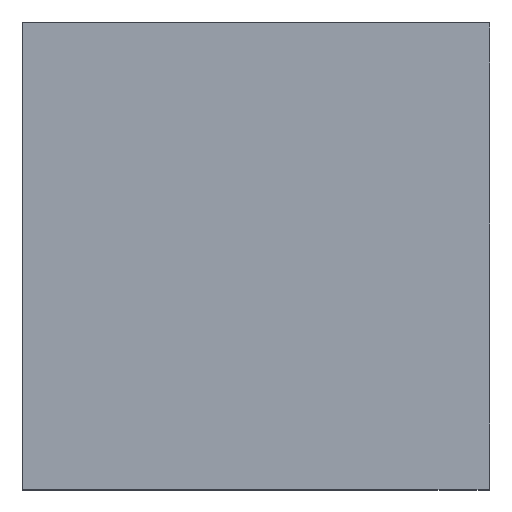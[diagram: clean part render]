
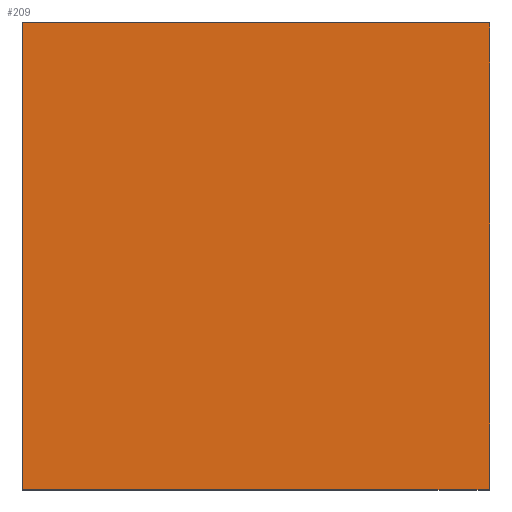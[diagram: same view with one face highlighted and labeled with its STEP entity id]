
A CAD part, top view. The second image highlights one B-rep face of the part: STEP entity #209.
In plain terms, the highlighted planar face has unit normal (0, 0, 1).
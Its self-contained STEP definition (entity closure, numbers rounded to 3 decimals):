
#103 = B_SPLINE_SURFACE_WITH_KNOTS('',3,1,(
    (#104,#105)
    ,(#106,#107)
    ,(#108,#109)
    ,(#110,#111)
    ,(#112,#113)
    ,(#114,#115)
    ,(#116,#117)
    ,(#118,#119)
    ,(#120,#121)
    ,(#122,#123)
    ,(#124,#125)
    ,(#126,#127)
    ,(#128,#129
    )),.UNSPECIFIED.,.T.,.F.,.F.,(4,3,3,3,4),(2,2),(0.,1.,2.,3.,4.),(0.,
    1.),.PIECEWISE_BEZIER_KNOTS.);
#104 = CARTESIAN_POINT('',(0.,0.,0.));
#105 = CARTESIAN_POINT('',(0.,0.,10.));
#106 = CARTESIAN_POINT('',(3333.33,0.,0.));
#107 = CARTESIAN_POINT('',(3333.33,0.,10.));
#108 = CARTESIAN_POINT('',(6666.67,0.,0.));
#109 = CARTESIAN_POINT('',(6666.67,0.,10.));
#110 = CARTESIAN_POINT('',(10000.,0.,0.));
#111 = CARTESIAN_POINT('',(10000.,0.,10.));
#112 = CARTESIAN_POINT('',(10000.,3333.33,0.));
#113 = CARTESIAN_POINT('',(10000.,3333.33,10.));
#114 = CARTESIAN_POINT('',(10000.,6666.67,0.));
#115 = CARTESIAN_POINT('',(10000.,6666.67,10.));
#116 = CARTESIAN_POINT('',(10000.,10000.,0.));
#117 = CARTESIAN_POINT('',(10000.,10000.,10.));
#118 = CARTESIAN_POINT('',(6666.67,10000.,0.));
#119 = CARTESIAN_POINT('',(6666.67,10000.,10.));
#120 = CARTESIAN_POINT('',(3333.33,10000.,0.));
#121 = CARTESIAN_POINT('',(3333.33,10000.,10.));
#122 = CARTESIAN_POINT('',(0.,10000.,0.));
#123 = CARTESIAN_POINT('',(0.,10000.,10.));
#124 = CARTESIAN_POINT('',(0.,6666.67,0.));
#125 = CARTESIAN_POINT('',(0.,6666.67,10.));
#126 = CARTESIAN_POINT('',(0.,3333.33,0.));
#127 = CARTESIAN_POINT('',(0.,3333.33,10.));
#128 = CARTESIAN_POINT('',(0.,0.,0.));
#129 = CARTESIAN_POINT('',(0.,0.,10.));
#142 = VERTEX_POINT('',#143);
#143 = CARTESIAN_POINT('',(0.,0.,10.));
#163 = EDGE_CURVE('',#142,#142,#164,.T.);
#164 = SURFACE_CURVE('',#165,(#179,#186),.PCURVE_S1.);
#165 = B_SPLINE_CURVE_WITH_KNOTS('',3,(#166,#167,#168,#169,#170,#171,
    #172,#173,#174,#175,#176,#177,#178),.UNSPECIFIED.,.T.,.F.,(4,3,3,3,4
    ),(0.,1.,2.,3.,4.),.PIECEWISE_BEZIER_KNOTS.);
#166 = CARTESIAN_POINT('',(0.,0.,10.));
#167 = CARTESIAN_POINT('',(3333.33,0.,10.));
#168 = CARTESIAN_POINT('',(6666.67,0.,10.));
#169 = CARTESIAN_POINT('',(10000.,0.,10.));
#170 = CARTESIAN_POINT('',(10000.,3333.33,10.));
#171 = CARTESIAN_POINT('',(10000.,6666.67,10.));
#172 = CARTESIAN_POINT('',(10000.,10000.,10.));
#173 = CARTESIAN_POINT('',(6666.67,10000.,10.));
#174 = CARTESIAN_POINT('',(3333.33,10000.,10.));
#175 = CARTESIAN_POINT('',(0.,10000.,10.));
#176 = CARTESIAN_POINT('',(0.,6666.67,10.));
#177 = CARTESIAN_POINT('',(0.,3333.33,10.));
#178 = CARTESIAN_POINT('',(0.,0.,10.));
#179 = PCURVE('',#103,#180);
#180 = DEFINITIONAL_REPRESENTATION('',(#181),#185);
#181 = LINE('',#182,#183);
#182 = CARTESIAN_POINT('',(0.,1.));
#183 = VECTOR('',#184,1.);
#184 = DIRECTION('',(1.,0.));
#185 = ( GEOMETRIC_REPRESENTATION_CONTEXT(2) 
PARAMETRIC_REPRESENTATION_CONTEXT() REPRESENTATION_CONTEXT('2D SPACE',''
  ) );
#186 = PCURVE('',#187,#192);
#187 = PLANE('',#188);
#188 = AXIS2_PLACEMENT_3D('',#189,#190,#191);
#189 = CARTESIAN_POINT('',(0.,0.,10.));
#190 = DIRECTION('',(0.,0.,1.));
#191 = DIRECTION('',(0.,1.,0.));
#192 = DEFINITIONAL_REPRESENTATION('',(#193),#207);
#193 = B_SPLINE_CURVE_WITH_KNOTS('',3,(#194,#195,#196,#197,#198,#199,
    #200,#201,#202,#203,#204,#205,#206),.UNSPECIFIED.,.T.,.F.,(4,3,3,3,4
    ),(0.,1.,2.,3.,4.),.PIECEWISE_BEZIER_KNOTS.);
#194 = CARTESIAN_POINT('',(0.,0.));
#195 = CARTESIAN_POINT('',(0.,-3333.33));
#196 = CARTESIAN_POINT('',(0.,-6666.67));
#197 = CARTESIAN_POINT('',(0.,-10000.));
#198 = CARTESIAN_POINT('',(3333.33,-10000.));
#199 = CARTESIAN_POINT('',(6666.67,-10000.));
#200 = CARTESIAN_POINT('',(10000.,-10000.));
#201 = CARTESIAN_POINT('',(10000.,-6666.67));
#202 = CARTESIAN_POINT('',(10000.,-3333.33));
#203 = CARTESIAN_POINT('',(10000.,0.));
#204 = CARTESIAN_POINT('',(6666.67,0.));
#205 = CARTESIAN_POINT('',(3333.33,0.));
#206 = CARTESIAN_POINT('',(0.,0.));
#207 = ( GEOMETRIC_REPRESENTATION_CONTEXT(2) 
PARAMETRIC_REPRESENTATION_CONTEXT() REPRESENTATION_CONTEXT('2D SPACE',''
  ) );
#209 = ADVANCED_FACE('',(#210),#187,.T.);
#210 = FACE_BOUND('',#211,.T.);
#211 = EDGE_LOOP('',(#212));
#212 = ORIENTED_EDGE('',*,*,#163,.T.);
